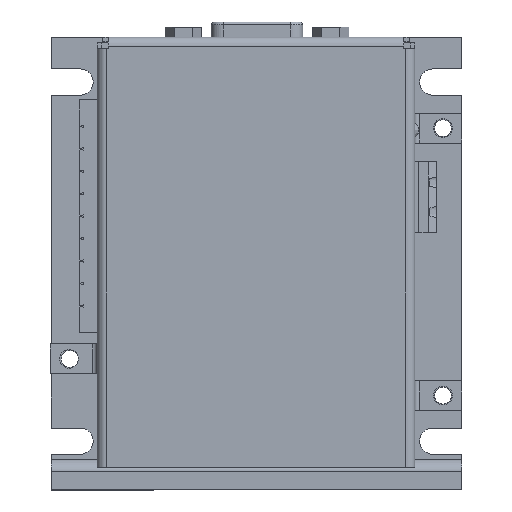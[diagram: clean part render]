
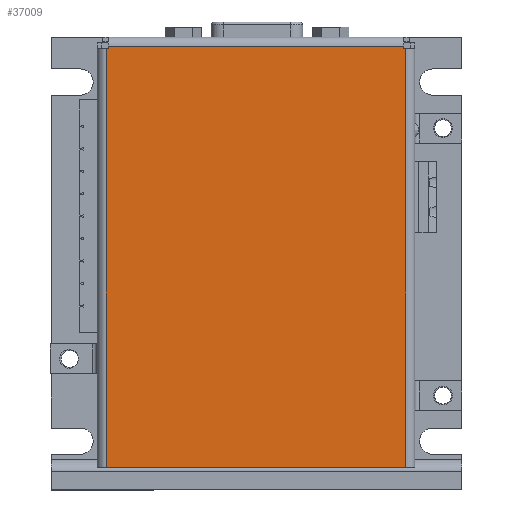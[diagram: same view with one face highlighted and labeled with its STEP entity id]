
A CAD part, top view. The second image highlights one B-rep face of the part: STEP entity #37009.
In plain terms, the highlighted planar face has unit normal (0, 0, 1).
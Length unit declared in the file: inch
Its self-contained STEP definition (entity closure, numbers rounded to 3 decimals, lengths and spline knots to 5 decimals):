
#9238 = AXIS2_PLACEMENT_3D ( 'NONE', #9927, #9928, #9929 ) ;
#9898 = PLANE ( 'NONE',  #9238 ) ;
#9915 = FACE_OUTER_BOUND ( 'NONE', #24953, .T. ) ;
#9927 = CARTESIAN_POINT ( 'NONE',  ( -1.0025, -1.4375, 0.875 ) ) ;
#9928 = DIRECTION ( 'NONE',  ( 0., 0., 1. ) ) ;
#9929 = DIRECTION ( 'NONE',  ( 1., 0., 0. ) ) ;
#24591 = VERTEX_POINT ( 'NONE', #62838 ) ;
#24647 = VERTEX_POINT ( 'NONE', #62870 ) ;
#24675 = VERTEX_POINT ( 'NONE', #62886 ) ;
#24727 = VERTEX_POINT ( 'NONE', #62916 ) ;
#24736 = VERTEX_POINT ( 'NONE', #62922 ) ;
#24809 = VERTEX_POINT ( 'NONE', #62963 ) ;
#24884 = VERTEX_POINT ( 'NONE', #63007 ) ;
#24887 = VERTEX_POINT ( 'NONE', #63009 ) ;
#24953 = EDGE_LOOP ( 'NONE', ( #41876, #41878, #41879, #41880, #41882, #41884, #41886, #41887 ) ) ;
#29544 = VECTOR ( 'NONE', #32593, 39.37008 ) ;
#29548 = VECTOR ( 'NONE', #32599, 39.37008 ) ;
#29601 = VECTOR ( 'NONE', #32732, 39.37008 ) ;
#29608 = VECTOR ( 'NONE', #32738, 39.37008 ) ;
#29615 = VECTOR ( 'NONE', #32753, 39.37008 ) ;
#32582 = LINE ( 'NONE', #32591, #29544 ) ;
#32591 = CARTESIAN_POINT ( 'NONE',  ( -1.0025, -0.03, 0.875 ) ) ;
#32592 = CARTESIAN_POINT ( 'NONE',  ( 0., 1.3625, 0.875 ) ) ;
#32593 = DIRECTION ( 'NONE',  ( 0., -1., 0. ) ) ;
#32595 = LINE ( 'NONE', #32592, #29548 ) ;
#32599 = DIRECTION ( 'NONE',  ( -1., 0., 0. ) ) ;
#32724 = CARTESIAN_POINT ( 'NONE',  ( -0.9875, -0.03, 0.875 ) ) ;
#32725 = LINE ( 'NONE', #32731, #29601 ) ;
#32729 = LINE ( 'NONE', #32724, #29608 ) ;
#32731 = CARTESIAN_POINT ( 'NONE',  ( 0.9875, -0.03, 0.875 ) ) ;
#32732 = DIRECTION ( 'NONE',  ( 0., 1., 0. ) ) ;
#32738 = DIRECTION ( 'NONE',  ( 0., -1., 0. ) ) ;
#32751 = LINE ( 'NONE', #32752, #29615 ) ;
#32752 = CARTESIAN_POINT ( 'NONE',  ( 0., 1.3775, 0.875 ) ) ;
#32753 = DIRECTION ( 'NONE',  ( -1., 0., 0. ) ) ;
#36140 = VECTOR ( 'NONE', #43691, 39.37008 ) ;
#36146 = VECTOR ( 'NONE', #43712, 39.37008 ) ;
#36188 = VECTOR ( 'NONE', #43823, 39.37008 ) ;
#37009 = ADVANCED_FACE ( 'NONE', ( #9915 ), #9898, .T. ) ;
#39639 = EDGE_CURVE ( 'NONE', #24675, #24736, #32582, .T. ) ;
#39641 = EDGE_CURVE ( 'NONE', #24809, #24675, #32595, .T. ) ;
#39685 = EDGE_CURVE ( 'NONE', #24647, #24591, #32725, .T. ) ;
#39687 = EDGE_CURVE ( 'NONE', #24727, #24809, #32729, .T. ) ;
#39692 = EDGE_CURVE ( 'NONE', #24591, #24727, #32751, .T. ) ;
#41876 = ORIENTED_EDGE ( 'NONE', *, *, #39692, .T. ) ;
#41878 = ORIENTED_EDGE ( 'NONE', *, *, #39687, .T. ) ;
#41879 = ORIENTED_EDGE ( 'NONE', *, *, #39641, .T. ) ;
#41880 = ORIENTED_EDGE ( 'NONE', *, *, #39639, .T. ) ;
#41882 = ORIENTED_EDGE ( 'NONE', *, *, #45364, .T. ) ;
#41884 = ORIENTED_EDGE ( 'NONE', *, *, #45379, .T. ) ;
#41886 = ORIENTED_EDGE ( 'NONE', *, *, #45361, .T. ) ;
#41887 = ORIENTED_EDGE ( 'NONE', *, *, #39685, .T. ) ;
#43686 = LINE ( 'NONE', #43689, #36140 ) ;
#43689 = CARTESIAN_POINT ( 'NONE',  ( 0., 1.3625, 0.875 ) ) ;
#43691 = DIRECTION ( 'NONE',  ( -1., 0., 0. ) ) ;
#43707 = LINE ( 'NONE', #43710, #36146 ) ;
#43710 = CARTESIAN_POINT ( 'NONE',  ( 0., -1.4375, 0.875 ) ) ;
#43712 = DIRECTION ( 'NONE',  ( 1., 0., 0. ) ) ;
#43818 = LINE ( 'NONE', #43821, #36188 ) ;
#43821 = CARTESIAN_POINT ( 'NONE',  ( 1.0025, -0.0375, 0.875 ) ) ;
#43823 = DIRECTION ( 'NONE',  ( 0., 1., 0. ) ) ;
#45361 = EDGE_CURVE ( 'NONE', #24884, #24647, #43686, .T. ) ;
#45364 = EDGE_CURVE ( 'NONE', #24736, #24887, #43707, .T. ) ;
#45379 = EDGE_CURVE ( 'NONE', #24887, #24884, #43818, .T. ) ;
#62838 = CARTESIAN_POINT ( 'NONE',  ( 0.9875, 1.3775, 0.875 ) ) ;
#62870 = CARTESIAN_POINT ( 'NONE',  ( 0.9875, 1.3625, 0.875 ) ) ;
#62886 = CARTESIAN_POINT ( 'NONE',  ( -1.0025, 1.3625, 0.875 ) ) ;
#62916 = CARTESIAN_POINT ( 'NONE',  ( -0.9875, 1.3775, 0.875 ) ) ;
#62922 = CARTESIAN_POINT ( 'NONE',  ( -1.0025, -1.4375, 0.875 ) ) ;
#62963 = CARTESIAN_POINT ( 'NONE',  ( -0.9875, 1.3625, 0.875 ) ) ;
#63007 = CARTESIAN_POINT ( 'NONE',  ( 1.0025, 1.3625, 0.875 ) ) ;
#63009 = CARTESIAN_POINT ( 'NONE',  ( 1.0025, -1.4375, 0.875 ) ) ;
